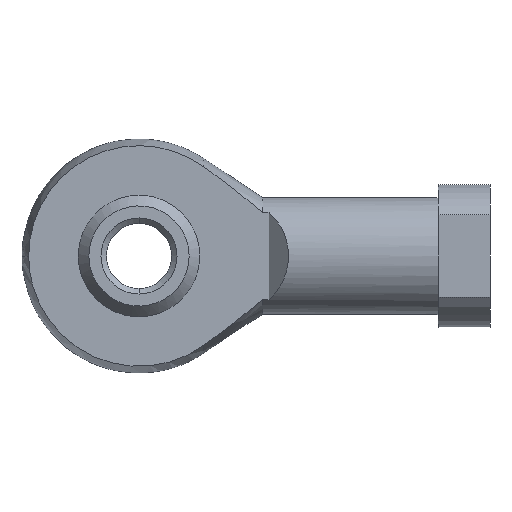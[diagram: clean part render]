
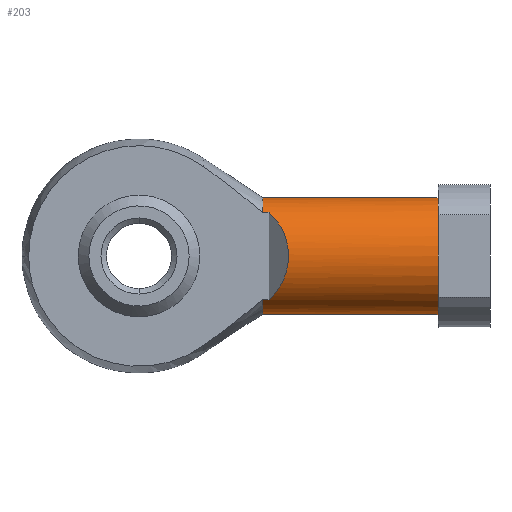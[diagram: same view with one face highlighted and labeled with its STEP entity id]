
A CAD part, front view. The second image highlights one B-rep face of the part: STEP entity #203.
In plain terms, the highlighted cylindrical face has radius 4.5 mm (diameter 9 mm), a partial arc.
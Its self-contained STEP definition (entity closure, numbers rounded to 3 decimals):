
#25 = ORIENTED_EDGE ( 'NONE', *, *, #1499, .T. ) ;
#34 = DIRECTION ( 'NONE',  ( 1., 0., 0. ) ) ;
#42 = FACE_OUTER_BOUND ( 'NONE', #415, .T. ) ;
#59 = CIRCLE ( 'NONE', #557, 4.5 ) ;
#74 = CARTESIAN_POINT ( 'NONE',  ( 23., 0., 4.5 ) ) ;
#82 = DIRECTION ( 'NONE',  ( -1., 0., 0. ) ) ;
#112 = LINE ( 'NONE', #290, #1107 ) ;
#156 = AXIS2_PLACEMENT_3D ( 'NONE', #1260, #1274, #770 ) ;
#168 = ORIENTED_EDGE ( 'NONE', *, *, #736, .T. ) ;
#186 = CARTESIAN_POINT ( 'NONE',  ( 9.5, -3., -3.354 ) ) ;
#203 = ADVANCED_FACE ( 'NONE', ( #42 ), #1418, .T. ) ;
#222 = DIRECTION ( 'NONE',  ( -1., 0., 0. ) ) ;
#227 = ORIENTED_EDGE ( 'NONE', *, *, #396, .T. ) ;
#290 = CARTESIAN_POINT ( 'NONE',  ( 16.25, -3., 3.354 ) ) ;
#388 = VECTOR ( 'NONE', #1498, 1000. ) ;
#395 = ORIENTED_EDGE ( 'NONE', *, *, #1465, .T. ) ;
#396 = EDGE_CURVE ( 'NONE', #1488, #763, #59, .T. ) ;
#398 = DIRECTION ( 'NONE',  ( 0., 0., 1. ) ) ;
#415 = EDGE_LOOP ( 'NONE', ( #838, #168, #227, #450, #731, #25, #395, #733, #925 ) ) ;
#419 = DIRECTION ( 'NONE',  ( 0., 0., 1. ) ) ;
#450 = ORIENTED_EDGE ( 'NONE', *, *, #1312, .T. ) ;
#460 = CARTESIAN_POINT ( 'NONE',  ( 12.143, -5.143, -1.437 ) ) ;
#468 = VECTOR ( 'NONE', #672, 1000. ) ;
#491 = VERTEX_POINT ( 'NONE', #186 ) ;
#539 = CARTESIAN_POINT ( 'NONE',  ( 10., -3., -3.354 ) ) ;
#557 = AXIS2_PLACEMENT_3D ( 'NONE', #978, #621, #398 ) ;
#558 = CARTESIAN_POINT ( 'NONE',  ( 10., -3., 3.354 ) ) ;
#561 = EDGE_CURVE ( 'NONE', #1306, #1324, #1090, .T. ) ;
#587 = CARTESIAN_POINT ( 'NONE',  ( 16.25, 0., 0. ) ) ;
#601 = VERTEX_POINT ( 'NONE', #1017 ) ;
#605 = DIRECTION ( 'NONE',  ( 0., 0., 1. ) ) ;
#621 = DIRECTION ( 'NONE',  ( -1., 0., 0. ) ) ;
#632 = EDGE_CURVE ( 'NONE', #878, #491, #1056, .T. ) ;
#672 = DIRECTION ( 'NONE',  ( -1., 0., 0. ) ) ;
#700 = CARTESIAN_POINT ( 'NONE',  ( 10., -3., 3.354 ) ) ;
#726 = AXIS2_PLACEMENT_3D ( 'NONE', #750, #883, #419 ) ;
#731 = ORIENTED_EDGE ( 'NONE', *, *, #561, .T. ) ;
#733 = ORIENTED_EDGE ( 'NONE', *, *, #632, .T. ) ;
#734 = DIRECTION ( 'NONE',  ( 1., 0., 0. ) ) ;
#736 = EDGE_CURVE ( 'NONE', #1265, #1488, #1151, .T. ) ;
#743 = AXIS2_PLACEMENT_3D ( 'NONE', #1210, #34, #605 ) ;
#750 = CARTESIAN_POINT ( 'NONE',  ( 23., 0., 0. ) ) ;
#763 = VERTEX_POINT ( 'NONE', #74 ) ;
#770 = DIRECTION ( 'NONE',  ( 0., 0., 1. ) ) ;
#838 = ORIENTED_EDGE ( 'NONE', *, *, #1433, .F. ) ;
#847 = CARTESIAN_POINT ( 'NONE',  ( 23., 0., -4.5 ) ) ;
#878 = VERTEX_POINT ( 'NONE', #924 ) ;
#880 = CARTESIAN_POINT ( 'NONE',  ( 9.5, -3., 3.354 ) ) ;
#883 = DIRECTION ( 'NONE',  ( -1., 0., 0. ) ) ;
#924 = CARTESIAN_POINT ( 'NONE',  ( 10., -3., -3.354 ) ) ;
#925 = ORIENTED_EDGE ( 'NONE', *, *, #1115, .T. ) ;
#978 = CARTESIAN_POINT ( 'NONE',  ( 23., 0., 0. ) ) ;
#990 = VECTOR ( 'NONE', #82, 1000. ) ;
#1017 = CARTESIAN_POINT ( 'NONE',  ( 9.5, 0., -4.5 ) ) ;
#1035 = VERTEX_POINT ( 'NONE', #700 ) ;
#1043 = DIRECTION ( 'NONE',  ( 0., 0., 1. ) ) ;
#1051 = CARTESIAN_POINT ( 'NONE',  ( 12.143, -5.143, 1.437 ) ) ;
#1053 =( BOUNDED_CURVE ( )  B_SPLINE_CURVE ( 3, ( #558, #1051, #460, #1293 ),
 .UNSPECIFIED., .F., .F. ) 
 B_SPLINE_CURVE_WITH_KNOTS ( ( 4, 4 ),
 ( 2.301, 3.983 ),
 .UNSPECIFIED. ) 
 CURVE ( )  GEOMETRIC_REPRESENTATION_ITEM ( )  RATIONAL_B_SPLINE_CURVE ( ( 1., 0.778, 0.778, 1. ) ) 
 REPRESENTATION_ITEM ( '' )  );
#1056 = LINE ( 'NONE', #539, #388 ) ;
#1090 = CIRCLE ( 'NONE', #156, 4.5 ) ;
#1107 = VECTOR ( 'NONE', #734, 1000. ) ;
#1115 = EDGE_CURVE ( 'NONE', #491, #601, #1435, .T. ) ;
#1123 = CARTESIAN_POINT ( 'NONE',  ( 16.25, 0., 4.5 ) ) ;
#1147 = LINE ( 'NONE', #1387, #468 ) ;
#1151 = CIRCLE ( 'NONE', #726, 4.5 ) ;
#1206 = AXIS2_PLACEMENT_3D ( 'NONE', #587, #222, #1043 ) ;
#1210 = CARTESIAN_POINT ( 'NONE',  ( 9.5, 0., 0. ) ) ;
#1260 = CARTESIAN_POINT ( 'NONE',  ( 9.5, 0., 0. ) ) ;
#1265 = VERTEX_POINT ( 'NONE', #847 ) ;
#1274 = DIRECTION ( 'NONE',  ( 1., 0., 0. ) ) ;
#1293 = CARTESIAN_POINT ( 'NONE',  ( 10., -3., -3.354 ) ) ;
#1306 = VERTEX_POINT ( 'NONE', #1348 ) ;
#1312 = EDGE_CURVE ( 'NONE', #763, #1306, #1431, .T. ) ;
#1324 = VERTEX_POINT ( 'NONE', #880 ) ;
#1348 = CARTESIAN_POINT ( 'NONE',  ( 9.5, 0., 4.5 ) ) ;
#1387 = CARTESIAN_POINT ( 'NONE',  ( 16.25, 0., -4.5 ) ) ;
#1418 = CYLINDRICAL_SURFACE ( 'NONE', #1206, 4.5 ) ;
#1431 = LINE ( 'NONE', #1123, #990 ) ;
#1433 = EDGE_CURVE ( 'NONE', #1265, #601, #1147, .T. ) ;
#1435 = CIRCLE ( 'NONE', #743, 4.5 ) ;
#1463 = CARTESIAN_POINT ( 'NONE',  ( 23., -4.5, 0. ) ) ;
#1465 = EDGE_CURVE ( 'NONE', #1035, #878, #1053, .T. ) ;
#1488 = VERTEX_POINT ( 'NONE', #1463 ) ;
#1498 = DIRECTION ( 'NONE',  ( -1., 0., 0. ) ) ;
#1499 = EDGE_CURVE ( 'NONE', #1324, #1035, #112, .T. ) ;
